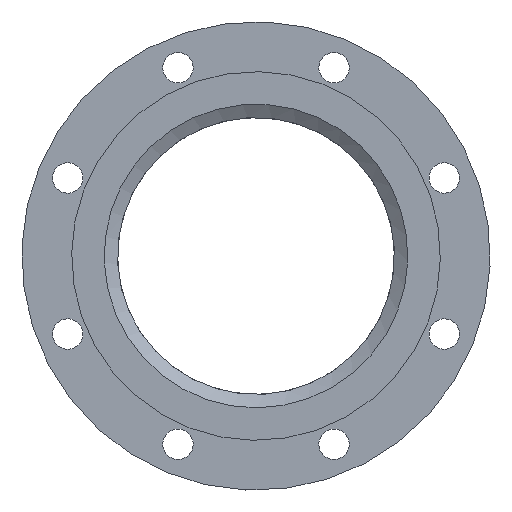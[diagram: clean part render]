
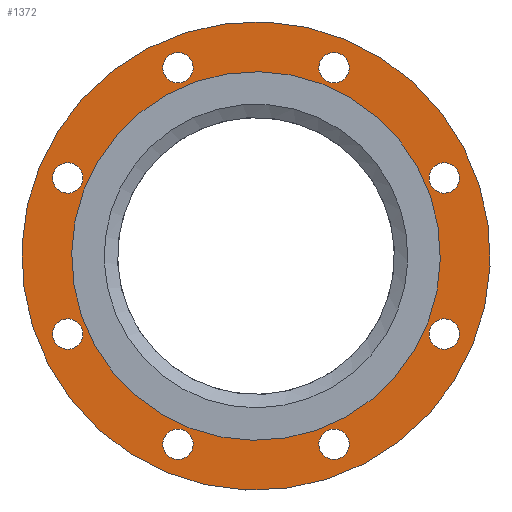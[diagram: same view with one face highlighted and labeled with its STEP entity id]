
A CAD part, front view. The second image highlights one B-rep face of the part: STEP entity #1372.
In plain terms, the highlighted planar face has unit normal (0, -1, 0).
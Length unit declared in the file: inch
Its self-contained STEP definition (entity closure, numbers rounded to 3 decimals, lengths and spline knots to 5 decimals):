
#54=PLANE('',#1506);
#124=FACE_BOUND('',#389,.T.);
#125=FACE_BOUND('',#390,.T.);
#126=FACE_BOUND('',#391,.T.);
#127=FACE_BOUND('',#392,.T.);
#128=FACE_BOUND('',#393,.T.);
#129=FACE_BOUND('',#394,.T.);
#130=FACE_BOUND('',#395,.T.);
#131=FACE_BOUND('',#396,.T.);
#132=FACE_BOUND('',#397,.T.);
#249=FACE_OUTER_BOUND('',#388,.T.);
#388=EDGE_LOOP('',(#1013));
#389=EDGE_LOOP('',(#1014));
#390=EDGE_LOOP('',(#1015));
#391=EDGE_LOOP('',(#1016));
#392=EDGE_LOOP('',(#1017));
#393=EDGE_LOOP('',(#1018));
#394=EDGE_LOOP('',(#1019));
#395=EDGE_LOOP('',(#1020));
#396=EDGE_LOOP('',(#1021));
#397=EDGE_LOOP('',(#1022));
#617=CIRCLE('',#1507,6.75);
#618=CIRCLE('',#1508,0.4375);
#619=CIRCLE('',#1509,0.4375);
#620=CIRCLE('',#1510,0.4375);
#621=CIRCLE('',#1511,0.4375);
#622=CIRCLE('',#1512,0.4375);
#623=CIRCLE('',#1513,0.4375);
#624=CIRCLE('',#1514,0.4375);
#625=CIRCLE('',#1515,0.4375);
#626=CIRCLE('',#1516,5.3125);
#742=VERTEX_POINT('',#2235);
#743=VERTEX_POINT('',#2237);
#744=VERTEX_POINT('',#2239);
#745=VERTEX_POINT('',#2241);
#746=VERTEX_POINT('',#2243);
#747=VERTEX_POINT('',#2245);
#748=VERTEX_POINT('',#2247);
#749=VERTEX_POINT('',#2249);
#750=VERTEX_POINT('',#2251);
#751=VERTEX_POINT('',#2253);
#867=EDGE_CURVE('',#742,#742,#617,.T.);
#868=EDGE_CURVE('',#743,#743,#618,.T.);
#869=EDGE_CURVE('',#744,#744,#619,.T.);
#870=EDGE_CURVE('',#745,#745,#620,.T.);
#871=EDGE_CURVE('',#746,#746,#621,.T.);
#872=EDGE_CURVE('',#747,#747,#622,.T.);
#873=EDGE_CURVE('',#748,#748,#623,.T.);
#874=EDGE_CURVE('',#749,#749,#624,.T.);
#875=EDGE_CURVE('',#750,#750,#625,.T.);
#876=EDGE_CURVE('',#751,#751,#626,.T.);
#1013=ORIENTED_EDGE('',*,*,#867,.T.);
#1014=ORIENTED_EDGE('',*,*,#868,.T.);
#1015=ORIENTED_EDGE('',*,*,#869,.T.);
#1016=ORIENTED_EDGE('',*,*,#870,.T.);
#1017=ORIENTED_EDGE('',*,*,#871,.T.);
#1018=ORIENTED_EDGE('',*,*,#872,.T.);
#1019=ORIENTED_EDGE('',*,*,#873,.T.);
#1020=ORIENTED_EDGE('',*,*,#874,.T.);
#1021=ORIENTED_EDGE('',*,*,#875,.T.);
#1022=ORIENTED_EDGE('',*,*,#876,.F.);
#1372=ADVANCED_FACE('',(#249,#124,#125,#126,#127,#128,#129,#130,#131,#132),
#54,.T.);
#1506=AXIS2_PLACEMENT_3D('',#2234,#1779,#1780);
#1507=AXIS2_PLACEMENT_3D('',#2236,#1781,#1782);
#1508=AXIS2_PLACEMENT_3D('',#2238,#1783,#1784);
#1509=AXIS2_PLACEMENT_3D('',#2240,#1785,#1786);
#1510=AXIS2_PLACEMENT_3D('',#2242,#1787,#1788);
#1511=AXIS2_PLACEMENT_3D('',#2244,#1789,#1790);
#1512=AXIS2_PLACEMENT_3D('',#2246,#1791,#1792);
#1513=AXIS2_PLACEMENT_3D('',#2248,#1793,#1794);
#1514=AXIS2_PLACEMENT_3D('',#2250,#1795,#1796);
#1515=AXIS2_PLACEMENT_3D('',#2252,#1797,#1798);
#1516=AXIS2_PLACEMENT_3D('',#2254,#1799,#1800);
#1779=DIRECTION('center_axis',(0.,-1.,0.));
#1780=DIRECTION('ref_axis',(-0.924,0.,0.383));
#1781=DIRECTION('center_axis',(0.,-1.,0.));
#1782=DIRECTION('ref_axis',(-0.924,0.,0.383));
#1783=DIRECTION('center_axis',(0.,1.,0.));
#1784=DIRECTION('ref_axis',(-0.924,0.,-0.383));
#1785=DIRECTION('center_axis',(0.,1.,0.));
#1786=DIRECTION('ref_axis',(-0.383,0.,-0.924));
#1787=DIRECTION('center_axis',(0.,1.,0.));
#1788=DIRECTION('ref_axis',(0.383,0.,-0.924));
#1789=DIRECTION('center_axis',(0.,1.,0.));
#1790=DIRECTION('ref_axis',(0.924,0.,-0.383));
#1791=DIRECTION('center_axis',(0.,1.,0.));
#1792=DIRECTION('ref_axis',(0.924,0.,0.383));
#1793=DIRECTION('center_axis',(0.,1.,0.));
#1794=DIRECTION('ref_axis',(0.383,0.,0.924));
#1795=DIRECTION('center_axis',(0.,1.,0.));
#1796=DIRECTION('ref_axis',(-0.383,0.,0.924));
#1797=DIRECTION('center_axis',(0.,1.,0.));
#1798=DIRECTION('ref_axis',(-0.924,0.,0.383));
#1799=DIRECTION('center_axis',(0.,-1.,0.));
#1800=DIRECTION('ref_axis',(-0.857,0.,0.515));
#2234=CARTESIAN_POINT('Origin',(0.,0.5,
0.));
#2235=CARTESIAN_POINT('',(6.23619,0.5,-2.58311));
#2236=CARTESIAN_POINT('Origin',(0.,0.5,
0.));
#2237=CARTESIAN_POINT('',(1.84407,0.5,-5.59522));
#2238=CARTESIAN_POINT('Origin',(2.24827,0.5,-5.42779));
#2239=CARTESIAN_POINT('',(5.26037,0.5,-2.65246));
#2240=CARTESIAN_POINT('Origin',(5.42779,0.5,-2.24827));
#2241=CARTESIAN_POINT('',(5.59522,0.5,1.84407));
#2242=CARTESIAN_POINT('Origin',(5.42779,0.5,2.24827));
#2243=CARTESIAN_POINT('',(2.65246,0.5,5.26037));
#2244=CARTESIAN_POINT('Origin',(2.24827,0.5,5.42779));
#2245=CARTESIAN_POINT('',(-1.84407,0.5,5.59522));
#2246=CARTESIAN_POINT('Origin',(-2.24827,0.5,5.42779));
#2247=CARTESIAN_POINT('',(-5.26037,0.5,2.65246));
#2248=CARTESIAN_POINT('Origin',(-5.42779,0.5,2.24827));
#2249=CARTESIAN_POINT('',(-5.59522,0.5,-1.84407));
#2250=CARTESIAN_POINT('Origin',(-5.42779,0.5,-2.24827));
#2251=CARTESIAN_POINT('',(-2.65246,0.5,-5.26037));
#2252=CARTESIAN_POINT('Origin',(-2.24827,0.5,-5.42779));
#2253=CARTESIAN_POINT('',(4.55512,0.5,-2.73378));
#2254=CARTESIAN_POINT('Origin',(0.,0.5,0.));
